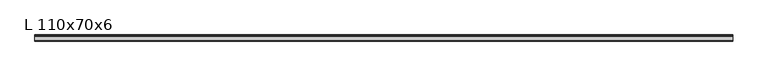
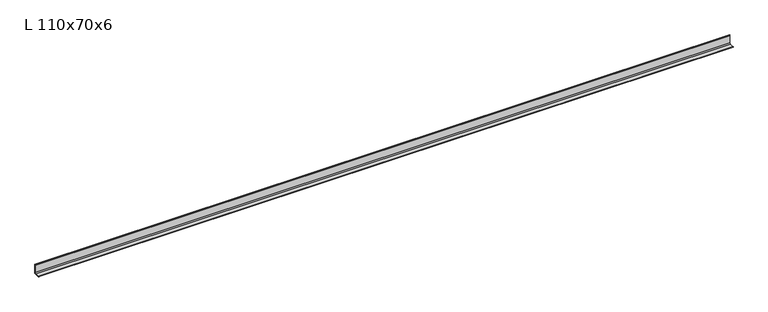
"""IFC4 building model written with IfcOpenShell, lengths in millimetres: beam geometry, Уголок (ГОСТ 8510-86) Балки : L 110x70x6."""

from ifc_helpers import new_model, si_unit, point, frame, frame_2d, origin, place, context, project, spatial, polyline, circle_curve, trimmed, segment, composite_curve, outline, extrude, source, transform, mapped, element, save


def l_110x70x6_8a1b4ed6(model_context):
    return source(origin(), model_context, "Body", "SweptSolid", [
        extrude(outline(composite_curve([segment(polyline([(15.8, -35.5), (-54.2, -35.5), (-54.2, -32.3)]), True, "CONTINUOUS"), segment(trimmed(circle_curve(frame_2d((-50.9, -32.3)), 3.3), [point((-54.2, -32.3))], [point((-50.9, -29.0))], False, "CARTESIAN"), True, "CONTINUOUS"), segment(polyline([(-50.9, -29.0), (-0.7, -29.0)]), True, "CONTINUOUS"), segment(trimmed(circle_curve(frame_2d((-0.7, -19.0)), 10.0), [point((-0.7, -29.0))], [point((9.3, -19.0))], True, "CARTESIAN"), True, "CONTINUOUS"), segment(polyline([(9.3, -19.0), (9.3, 71.2)]), True, "CONTINUOUS"), segment(trimmed(circle_curve(frame_2d((12.6, 71.2)), 3.3), [point((9.3, 71.2))], [point((12.6, 74.5))], False, "CARTESIAN"), True, "CONTINUOUS"), segment(polyline([(12.6, 74.5), (15.8, 74.5), (15.8, -35.5)]), True, "CONTINUOUS")], self_intersect=False)), frame((-4000.0, 0.0, 0.0), z_axis=(1.0, 0.0, 0.0), x_axis=(0.0, 1.0, 0.0)), (0.0, 0.0, 1.0), 8000.0),
    ])


if __name__ == "__main__":
    model = new_model("IFC4")
    model_context = context("Model", 3, world=origin())
    ifc_project = project(units=[si_unit("LENGTHUNIT", "METRE", prefix="MILLI")], contexts=[model_context])
    site = spatial("IfcSite", under=ifc_project)
    building = spatial("IfcBuilding", under=site)
    placement = place(None, origin())
    l_110x70x6_shape = l_110x70x6_8a1b4ed6(model_context)
    element("IfcBeam", 1, ObjectType="Уголок (ГОСТ 8510-86) Балки : L 110x70x6", at=placement, inside=building, context=model_context, shape_type="MappedRepresentation", body=[
        mapped(l_110x70x6_shape, transform((0.0, 0.0, 0.0), x_axis=(1.0, 0.0, 0.0), y_axis=(0.0, 1.0, 0.0), z_axis=(0.0, 0.0, 1.0))),
    ])
    save(model, "model.ifc")
